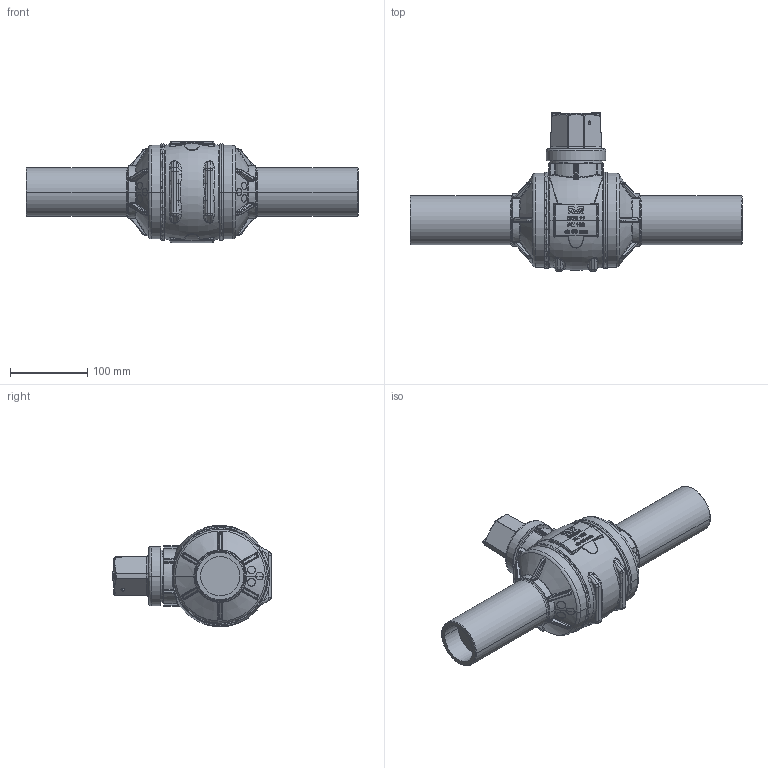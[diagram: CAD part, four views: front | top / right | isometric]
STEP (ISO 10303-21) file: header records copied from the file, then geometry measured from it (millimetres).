
FILE_DESCRIPTION (( 'STEP AP203' ), '1' );
FILE_NAME ('SOLID CERTUS VALVE PE BALL VALVE UNI OD63-DN50.STEP', '2020-01-15T13:10:41', ( 'Beheer' ), ( '' ), 'SwSTEP 2.0', 'SolidWorks 2012', '' );
FILE_SCHEMA (( 'CONFIG_CONTROL_DESIGN' ));
Length unit declared in the file: millimetre
Products named in the file (1): SOLID CERTUS VALVE PE BALL VALVE UNI OD63-DN50
Bounding box: 430.4 x 205.2 x 131.25 mm (x, y, z)
Volume: 2654318.8 mm3; surface area: 169571.7 mm2
Topology: 1 solids, 11 shells, 1751 faces, 4312 edges, 2541 vertices
Faces by surface type: bspline 712, cylinder 385, plane 325, torus 189, sphere 72, cone 68
Entity records: 89615 total; most frequent: CARTESIAN_POINT 54040, ORIENTED_EDGE 8464, DIRECTION 6018, EDGE_CURVE 4232, VERTEX_POINT 2541, AXIS2_PLACEMENT_3D 2529, EDGE_LOOP 1797, ADVANCED_FACE 1751
